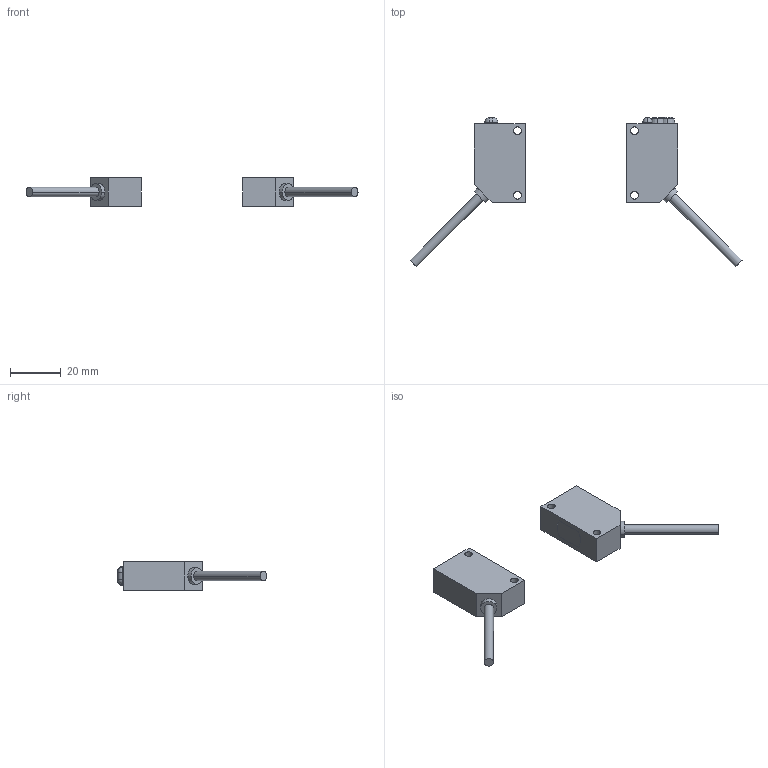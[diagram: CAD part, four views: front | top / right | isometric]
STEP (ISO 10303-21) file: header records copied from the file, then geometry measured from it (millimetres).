
FILE_DESCRIPTION (( 'STEP AP203' ), '1' );
FILE_NAME ('CX-411.STEP', '2005-09-05T02:04:11', ( '川島良英' ), ( ' ' ), 'SwSTEP 2.0', 'SolidWorks 2004251', '' );
FILE_SCHEMA (( 'CONFIG_CONTROL_DESIGN' ));
Length unit declared in the file: millimetre
Products named in the file (3): CX-411; CX-411D_蹬怮椔; CX-411E_蹬怮椔
Assembly tree (2 placements, depth 2):
  CX-411
    CX-411E_蹬怮椔
    CX-411D_蹬怮椔
Bounding box: 130.63 x 58.81 x 11.2 mm (x, y, z)
Volume: 14085.2 mm3; surface area: 6016.8 mm2
Topology: 2 solids, 2 shells, 101 faces, 246 edges, 152 vertices
Faces by surface type: plane 44, cylinder 43, sphere 8, cone 6
Entity records: 3259 total; most frequent: DIRECTION 542, CARTESIAN_POINT 539, ORIENTED_EDGE 476, EDGE_CURVE 238, AXIS2_PLACEMENT_3D 207, VERTEX_POINT 152, VECTOR 128, LINE 128
